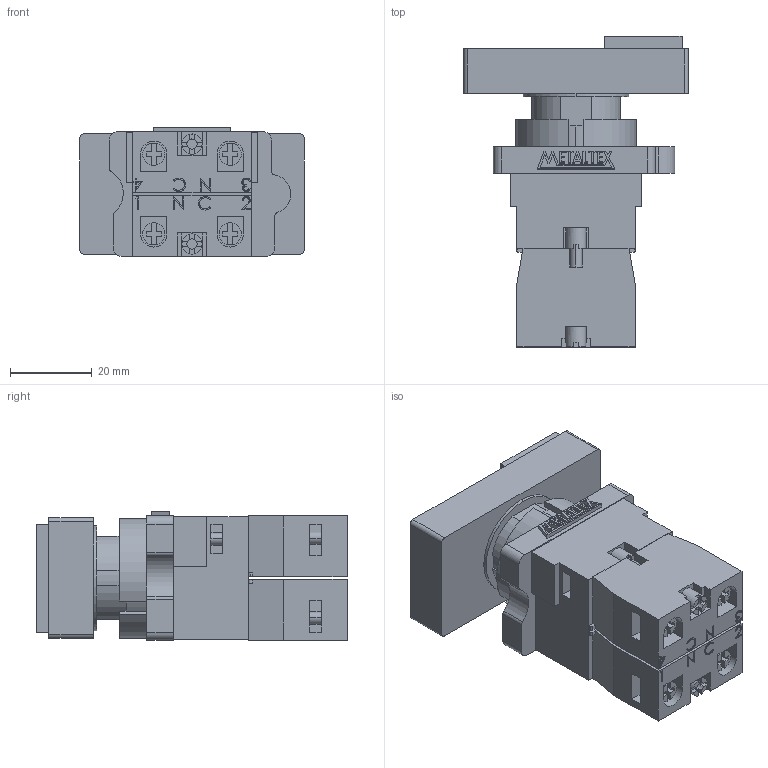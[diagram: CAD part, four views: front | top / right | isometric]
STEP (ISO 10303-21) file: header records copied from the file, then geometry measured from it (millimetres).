
FILE_DESCRIPTION (( 'STEP AP203' ), '1' );
FILE_NAME ('P20ITL-Y-1C.STEP', '2018-01-17T14:06:05', ( '' ), ( '' ), 'SwSTEP 2.0', 'SolidWorks 2012', '' );
FILE_SCHEMA (( 'CONFIG_CONTROL_DESIGN' ));
Length unit declared in the file: millimetre
Products named in the file (6): P20ITL-Y-1C; METALTEX 18,98; M20-1B; M20-IL; M20-1A; P20ITL
Assembly tree (5 placements, depth 2):
  P20ITL-Y-1C
    P20ITL
    M20-1A
    M20-IL
    M20-1B
    METALTEX 18,98
Bounding box: 55 x 76.25 x 31.5 mm (x, y, z)
Volume: 67896 mm3; surface area: 26555.5 mm2
Topology: 11 solids, 11 shells, 712 faces, 1860 edges, 1232 vertices
Faces by surface type: plane 513, cylinder 137, bspline 46, torus 16
Entity records: 25206 total; most frequent: CARTESIAN_POINT 6930, ORIENTED_EDGE 3720, DIRECTION 3518, EDGE_CURVE 1860, VECTOR 1366, LINE 1366, VERTEX_POINT 1232, AXIS2_PLACEMENT_3D 1076
